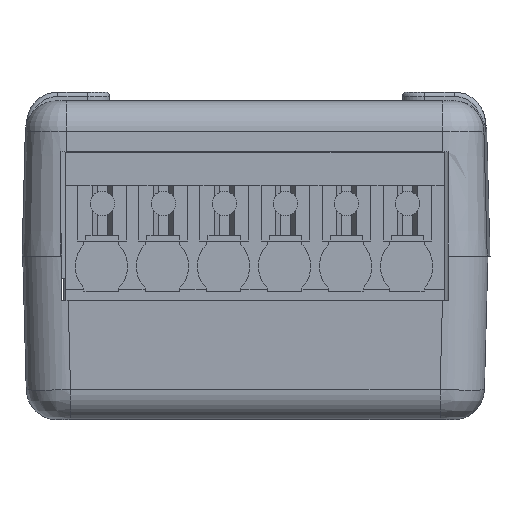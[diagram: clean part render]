
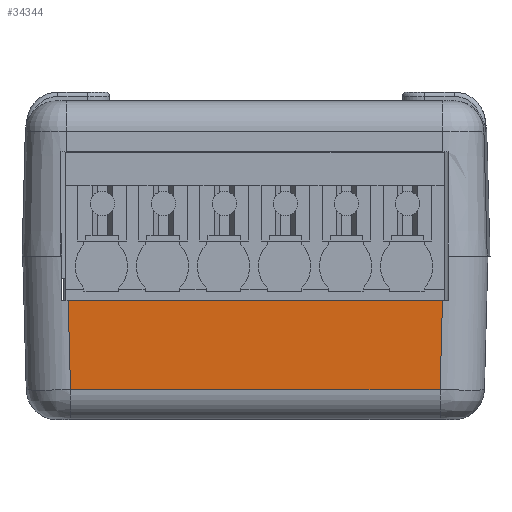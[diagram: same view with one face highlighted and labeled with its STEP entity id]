
A CAD part, left-side view. The second image highlights one B-rep face of the part: STEP entity #34344.
In plain terms, the highlighted planar face has unit normal (-1, 0, -0.026).
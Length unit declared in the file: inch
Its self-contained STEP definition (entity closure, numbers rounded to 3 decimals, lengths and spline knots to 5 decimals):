
#14644 = CARTESIAN_POINT ( 'NONE',  ( -2.79808, -0.28534, 0.69008 ) ) ;
#28509 = DIRECTION ( 'NONE',  ( -0.026, -0.026, 0.999 ) ) ;
#31562 = VECTOR ( 'NONE', #28509, 39.37008 ) ;
#34344 = ADVANCED_FACE ( 'NONE', ( #93969 ), #91077, .T. ) ;
#34412 = ORIENTED_EDGE ( 'NONE', *, *, #162499, .T. ) ;
#35315 = CARTESIAN_POINT ( 'NONE',  ( -2.79279, -0.28005, 0.48825 ) ) ;
#37231 = EDGE_CURVE ( 'NONE', #163126, #158564, #71245, .T. ) ;
#42280 = AXIS2_PLACEMENT_3D ( 'NONE', #78370, #149886, #164693 ) ;
#43140 = CARTESIAN_POINT ( 'NONE',  ( -2.80004, -0.28731, 0.76523 ) ) ;
#57607 = DIRECTION ( 'NONE',  ( 0., 1., 0. ) ) ;
#59034 = CARTESIAN_POINT ( 'NONE',  ( -2.80076, 0.56218, 0.79269 ) ) ;
#65683 = VECTOR ( 'NONE', #88277, 39.37008 ) ;
#69685 = VERTEX_POINT ( 'NONE', #158180 ) ;
#70214 = DIRECTION ( 'NONE',  ( 0., -1., 0. ) ) ;
#71245 = LINE ( 'NONE', #131887, #177138 ) ;
#78370 = CARTESIAN_POINT ( 'NONE',  ( -2.80069, 0.66208, 0.79008 ) ) ;
#88277 = DIRECTION ( 'NONE',  ( 0.026, -0.026, -0.999 ) ) ;
#91077 = PLANE ( 'NONE',  #42280 ) ;
#93969 = FACE_OUTER_BOUND ( 'NONE', #168831, .T. ) ;
#103023 = CARTESIAN_POINT ( 'NONE',  ( -2.79808, 0.55949, 0.69008 ) ) ;
#108292 = VERTEX_POINT ( 'NONE', #35315 ) ;
#113311 = LINE ( 'NONE', #128942, #142228 ) ;
#121542 = LINE ( 'NONE', #59034, #65683 ) ;
#128774 = EDGE_CURVE ( 'NONE', #69685, #108292, #113311, .T. ) ;
#128942 = CARTESIAN_POINT ( 'NONE',  ( -2.79279, -0.27827, 0.48825 ) ) ;
#131887 = CARTESIAN_POINT ( 'NONE',  ( -2.79808, 0.66208, 0.69008 ) ) ;
#134020 = LINE ( 'NONE', #43140, #31562 ) ;
#139951 = ORIENTED_EDGE ( 'NONE', *, *, #149814, .T. ) ;
#142228 = VECTOR ( 'NONE', #70214, 39.37008 ) ;
#149814 = EDGE_CURVE ( 'NONE', #108292, #163126, #134020, .T. ) ;
#149886 = DIRECTION ( 'NONE',  ( -1., 0., -0.026 ) ) ;
#158180 = CARTESIAN_POINT ( 'NONE',  ( -2.79279, 0.55421, 0.48825 ) ) ;
#158564 = VERTEX_POINT ( 'NONE', #103023 ) ;
#159983 = ORIENTED_EDGE ( 'NONE', *, *, #37231, .T. ) ;
#162499 = EDGE_CURVE ( 'NONE', #158564, #69685, #121542, .T. ) ;
#163126 = VERTEX_POINT ( 'NONE', #14644 ) ;
#164693 = DIRECTION ( 'NONE',  ( 0.026, 0., -1. ) ) ;
#168831 = EDGE_LOOP ( 'NONE', ( #34412, #181145, #139951, #159983 ) ) ;
#177138 = VECTOR ( 'NONE', #57607, 39.37008 ) ;
#181145 = ORIENTED_EDGE ( 'NONE', *, *, #128774, .T. ) ;
